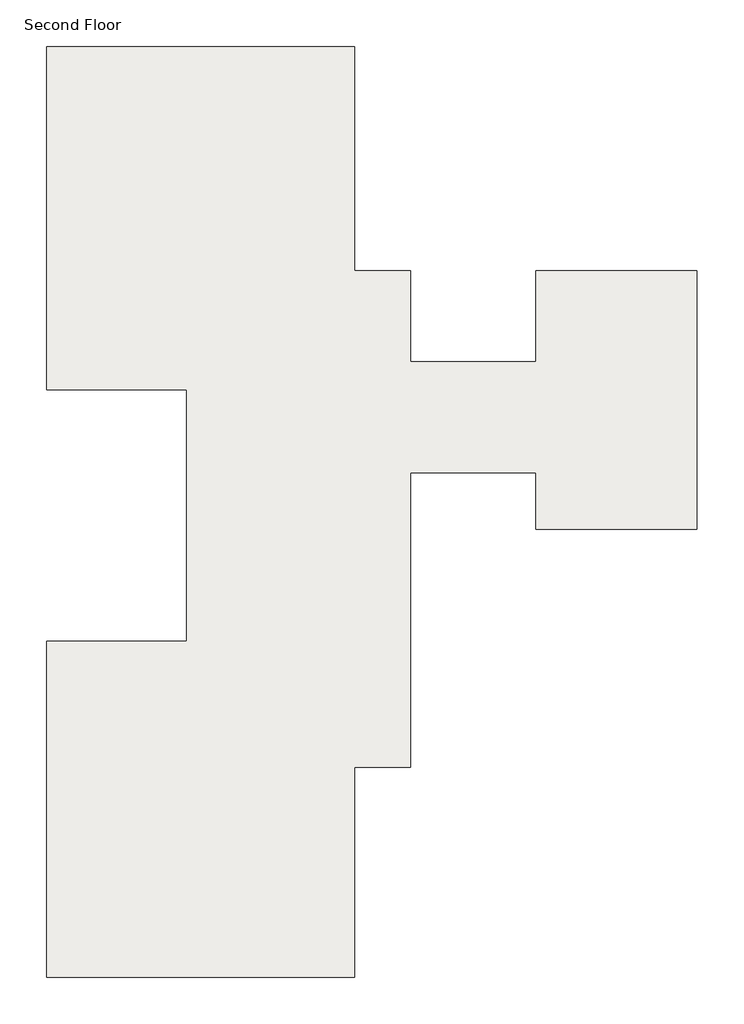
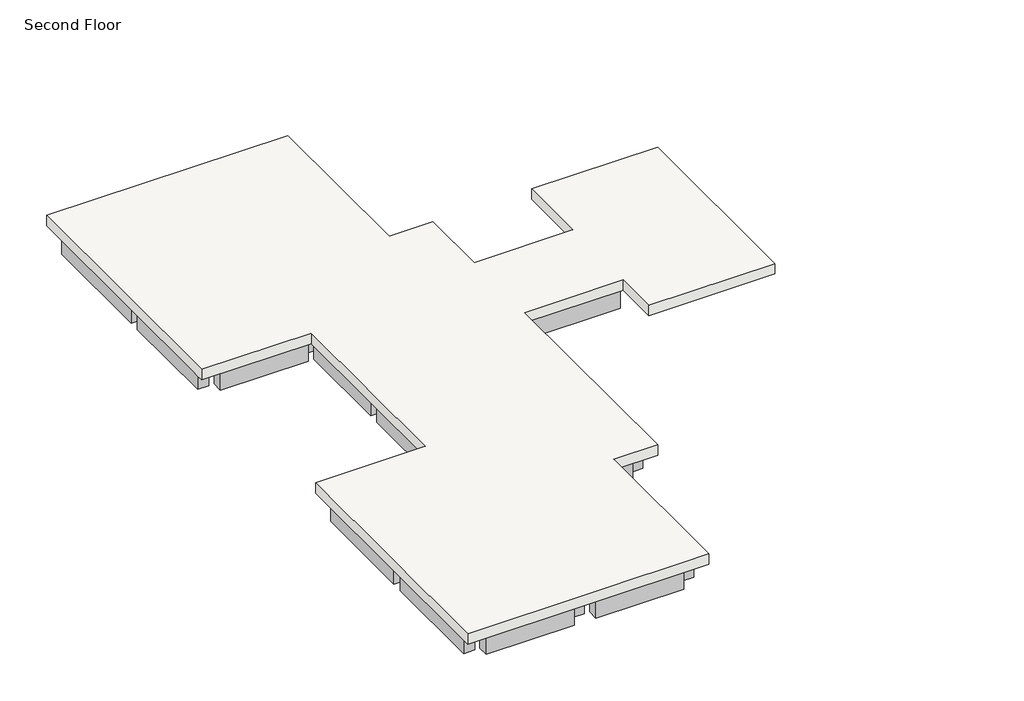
# One storey: 38 beams, 1 slab.
"""IFC4 building model written with IfcOpenShell, lengths in millimetres."""

from ifc_helpers import new_model, si_unit, frame, origin, place, context, project, spatial, polyline, outline, extrude, faceted_brep, element, save

model = new_model("IFC4")

# Units and contexts
model_context = context("Model", 3, world=origin())
ifc_project = project(units=[si_unit("LENGTHUNIT", "METRE", prefix="MILLI")], contexts=[model_context])

# Site, building, storey
site = spatial("IfcSite", under=ifc_project)
building = spatial("IfcBuilding", under=site)
storey = spatial("IfcBuildingStorey", under=building, Name="Second Floor", Elevation=3810.0)

# Beams
placement = place(None, origin())
element("IfcBeam", 1, ObjectType="Concrete-Rectangular Beam : 12 x 24", at=placement, inside=storey, context=model_context, shape_type="SweptSolid", body=[
    extrude(outline(polyline([(-15067.9554735, 14342.1867088), (-15067.9554735, 14646.9867088), (-12629.5554735, 14646.9867088), (-12629.5554735, 14342.1867088), (-15067.9554735, 14342.1867088)])), frame((0.0, 0.0, 2895.6), z_axis=(0.0, 0.0, 1.0), x_axis=(1.0, 0.0, 0.0)), (0.0, 0.0, 1.0), 609.6),
])
element("IfcBeam", 2, ObjectType="Concrete-Rectangular Beam : 12 x 24", at=placement, inside=storey, context=model_context, shape_type="SweptSolid", body=[
    extrude(outline(polyline([(-12019.9554735, 14342.1867088), (-12019.9554735, 14646.9867088), (-9581.5554735, 14646.9867088), (-9581.5554735, 14342.1867088), (-12019.9554735, 14342.1867088)])), frame((0.0, 0.0, 2895.6), z_axis=(0.0, 0.0, 1.0), x_axis=(1.0, 0.0, 0.0)), (0.0, 0.0, 1.0), 609.6),
])
element("IfcBeam", 3, ObjectType="Concrete-Rectangular Beam : 12 x 24", at=placement, inside=storey, context=model_context, shape_type="SweptSolid", body=[
    extrude(outline(polyline([(-9429.1554735, 14342.1867088), (-9124.3554735, 14342.1867088), (-9124.3554735, 10989.3867088), (-9429.1554735, 10989.3867088), (-9429.1554735, 14342.1867088)])), frame((0.0, 0.0, 2895.6), z_axis=(0.0, 0.0, 1.0), x_axis=(1.0, 0.0, 0.0)), (0.0, 0.0, 1.0), 609.6),
])
element("IfcBeam", 4, ObjectType="Concrete-Rectangular Beam : 12 x 24", at=placement, inside=storey, context=model_context, shape_type="SweptSolid", body=[
    extrude(outline(polyline([(-7905.1554735, 7788.9867088), (-8209.9554735, 7788.9867088), (-8209.9554735, 9465.3867088), (-7905.1554735, 9465.3867088), (-7905.1554735, 7788.9867088)])), frame((0.0, 0.0, 2895.6), z_axis=(0.0, 0.0, 1.0), x_axis=(1.0, 0.0, 0.0)), (0.0, 0.0, 1.0), 609.6),
])
element("IfcBeam", 5, ObjectType="Concrete-Rectangular Beam : 12 x 24", at=placement, inside=storey, context=model_context, shape_type="Brep", body=[
    faceted_brep([(-9429.1554735, 9770.1867088, 3505.2), (-9429.1554735, 9465.3867088, 3505.2), (-8362.3554735, 9465.3867088, 3505.2), (-8362.3554735, 9770.1867088, 3505.2), (-9124.3554735, 9770.1867088, 3505.2), (-9429.1554735, 9770.1867088, 2895.6), (-8362.3554735, 9770.1867088, 2895.6), (-9124.3554735, 9770.1867088, 2895.6), (-9429.1554735, 9465.3867088, 2895.6), (-8362.3554735, 9465.3867088, 2895.6)], [[[0, 1, 2, 3, 4]], [[5, 0, 4, 3, 6, 7]], [[8, 5, 7, 6, 9]], [[1, 8, 9, 2]], [[3, 2, 9, 6]], [[1, 0, 5, 8]]]),
])
element("IfcBeam", 6, ObjectType="Concrete-Rectangular Beam : 12 x 24", at=placement, inside=storey, context=model_context, shape_type="Brep", body=[
    faceted_brep([(-7905.1554735, 7484.1867088, 3505.2), (-8209.9554735, 7484.1867088, 3505.2), (-8209.9554735, 4740.9867088, 3505.2), (-7905.1554735, 4740.9867088, 3505.2), (-7905.1554735, 5655.3867088, 3505.2), (-7905.1554735, 5960.1867088, 3505.2), (-8209.9554735, 7484.1867088, 2895.6), (-8209.9554735, 4740.9867088, 2895.6), (-7905.1554735, 7484.1867088, 2895.6), (-7905.1554735, 5960.1867088, 2895.6), (-7905.1554735, 5655.3867088, 2895.6), (-7905.1554735, 4740.9867088, 2895.6)], [[[0, 1, 2, 3, 4, 5]], [[1, 6, 7, 2]], [[6, 8, 9, 10, 11, 7]], [[8, 0, 5, 4, 3, 11, 10, 9]], [[6, 1, 0, 8]], [[3, 2, 7, 11]]]),
])
element("IfcBeam", 7, ObjectType="Concrete-Rectangular Beam : 12 x 24", at=placement, inside=storey, context=model_context, shape_type="SweptSolid", body=[
    extrude(outline(polyline([(-8209.9554735, 4436.1867088), (-7905.1554735, 4436.1867088), (-7905.1554735, 1692.9867088), (-8209.9554735, 1692.9867088), (-8209.9554735, 4436.1867088)])), frame((0.0, 0.0, 2895.6), z_axis=(0.0, 0.0, 1.0), x_axis=(1.0, 0.0, 0.0)), (0.0, 0.0, 1.0), 609.6),
])
element("IfcBeam", 8, ObjectType="Concrete-Rectangular Beam : 12 x 24", at=placement, inside=storey, context=model_context, shape_type="SweptSolid", body=[
    extrude(outline(polyline([(-8209.9554735, 1388.1867088), (-7905.1554735, 1388.1867088), (-7905.1554735, -440.6132912), (-8209.9554735, -440.6132912), (-8209.9554735, 1388.1867088)])), frame((0.0, 0.0, 2895.6), z_axis=(0.0, 0.0, 1.0), x_axis=(1.0, 0.0, 0.0)), (0.0, 0.0, 1.0), 609.6),
])
element("IfcBeam", 9, ObjectType="Concrete-Rectangular Beam : 12 x 24", at=placement, inside=storey, context=model_context, shape_type="Brep", body=[
    faceted_brep([(-9429.1554735, -440.6132912, 3505.2), (-9429.1554735, -745.4132912, 3505.2), (-9124.3554735, -745.4132912, 3505.2), (-8362.3554735, -745.4132912, 3505.2), (-8362.3554735, -440.6132912, 3505.2), (-9429.1554735, -440.6132912, 2895.6), (-8362.3554735, -440.6132912, 2895.6), (-9429.1554735, -745.4132912, 2895.6), (-8362.3554735, -745.4132912, 2895.6), (-9124.3554735, -745.4132912, 2895.6)], [[[0, 1, 2, 3, 4]], [[5, 0, 4, 6]], [[7, 5, 6, 8, 9]], [[1, 7, 9, 8, 3, 2]], [[4, 3, 8, 6]], [[1, 0, 5, 7]]]),
])
element("IfcBeam", 10, ObjectType="Concrete-Rectangular Beam : 12 x 24", at=placement, inside=storey, context=model_context, shape_type="SweptSolid", body=[
    extrude(outline(polyline([(-9429.1554735, -745.4132912), (-9124.3554735, -745.4132912), (-9124.3554735, -1659.8132912), (-9429.1554735, -1659.8132912), (-9429.1554735, -745.4132912)])), frame((0.0, 0.0, 2895.6), z_axis=(0.0, 0.0, 1.0), x_axis=(1.0, 0.0, 0.0)), (0.0, 0.0, 1.0), 609.6),
])
element("IfcBeam", 11, ObjectType="Concrete-Rectangular Beam : 12 x 24", at=placement, inside=storey, context=model_context, shape_type="SweptSolid", body=[
    extrude(outline(polyline([(-9429.1554735, -1964.6132912), (-9124.3554735, -1964.6132912), (-9124.3554735, -5012.6132912), (-9429.1554735, -5012.6132912), (-9429.1554735, -1964.6132912)])), frame((0.0, 0.0, 2895.6), z_axis=(0.0, 0.0, 1.0), x_axis=(1.0, 0.0, 0.0)), (0.0, 0.0, 1.0), 609.6),
])
element("IfcBeam", 12, ObjectType="Concrete-Rectangular Beam : 12 x 24", at=placement, inside=storey, context=model_context, shape_type="SweptSolid", body=[
    extrude(outline(polyline([(-12019.9554735, -5317.4132912), (-12019.9554735, -5012.6132912), (-9581.5554735, -5012.6132912), (-9581.5554735, -5317.4132912), (-12019.9554735, -5317.4132912)])), frame((0.0, 0.0, 2895.6), z_axis=(0.0, 0.0, 1.0), x_axis=(1.0, 0.0, 0.0)), (0.0, 0.0, 1.0), 609.6),
])
element("IfcBeam", 13, ObjectType="Concrete-Rectangular Beam : 12 x 24", at=placement, inside=storey, context=model_context, shape_type="SweptSolid", body=[
    extrude(outline(polyline([(-12629.5554735, -5012.6132912), (-12629.5554735, -5317.4132912), (-15067.9554735, -5317.4132912), (-15067.9554735, -5012.6132912), (-12629.5554735, -5012.6132912)])), frame((0.0, 0.0, 2895.6), z_axis=(0.0, 0.0, 1.0), x_axis=(1.0, 0.0, 0.0)), (0.0, 0.0, 1.0), 609.6),
])
element("IfcBeam", 14, ObjectType="Concrete-Rectangular Beam : 12 x 24", at=placement, inside=storey, context=model_context, shape_type="SweptSolid", body=[
    extrude(outline(polyline([(-15220.3554735, -5012.6132912), (-15525.1554735, -5012.6132912), (-15525.1554735, -1964.6132912), (-15220.3554735, -1964.6132912), (-15220.3554735, -5012.6132912)])), frame((0.0, 0.0, 2895.6), z_axis=(0.0, 0.0, 1.0), x_axis=(1.0, 0.0, 0.0)), (0.0, 0.0, 1.0), 609.6),
])
element("IfcBeam", 15, ObjectType="Concrete-Rectangular Beam : 12 x 24", at=placement, inside=storey, context=model_context, shape_type="SweptSolid", body=[
    extrude(outline(polyline([(-15220.3554735, -1659.8132912), (-15525.1554735, -1659.8132912), (-15525.1554735, 1388.1867088), (-15220.3554735, 1388.1867088), (-15220.3554735, -1659.8132912)])), frame((0.0, 0.0, 2895.6), z_axis=(0.0, 0.0, 1.0), x_axis=(1.0, 0.0, 0.0)), (0.0, 0.0, 1.0), 609.6),
])
element("IfcBeam", 16, ObjectType="Concrete-Rectangular Beam : 12 x 24", at=placement, inside=storey, context=model_context, shape_type="SweptSolid", body=[
    extrude(outline(polyline([(-15525.1554735, 14342.1867088), (-15220.3554735, 14342.1867088), (-15220.3554735, 10989.3867088), (-15525.1554735, 10989.3867088), (-15525.1554735, 14342.1867088)])), frame((0.0, 0.0, 2895.6), z_axis=(0.0, 0.0, 1.0), x_axis=(1.0, 0.0, 0.0)), (0.0, 0.0, 1.0), 609.6),
])
element("IfcBeam", 17, ObjectType="Concrete-Rectangular Beam : 12 x 24", at=placement, inside=storey, context=model_context, shape_type="SweptSolid", body=[
    extrude(outline(polyline([(-12477.1554735, 14342.1867088), (-12172.3554735, 14342.1867088), (-12172.3554735, 10989.3867088), (-12477.1554735, 10989.3867088), (-12477.1554735, 14342.1867088)])), frame((0.0, 0.0, 2895.6), z_axis=(0.0, 0.0, 1.0), x_axis=(1.0, 0.0, 0.0)), (0.0, 0.0, 1.0), 609.6),
])
element("IfcBeam", 18, ObjectType="Concrete-Rectangular Beam : 12 x 24", at=placement, inside=storey, context=model_context, shape_type="SweptSolid", body=[
    extrude(outline(polyline([(-15067.9554735, 10684.5867088), (-15067.9554735, 10989.3867088), (-12629.5554735, 10989.3867088), (-12629.5554735, 10684.5867088), (-15067.9554735, 10684.5867088)])), frame((0.0, 0.0, 2895.6), z_axis=(0.0, 0.0, 1.0), x_axis=(1.0, 0.0, 0.0)), (0.0, 0.0, 1.0), 609.6),
])
element("IfcBeam", 19, ObjectType="Concrete-Rectangular Beam : 12 x 24", at=placement, inside=storey, context=model_context, shape_type="SweptSolid", body=[
    extrude(outline(polyline([(-12477.1554735, 10836.9867088), (-12172.3554735, 10836.9867088), (-12172.3554735, 7788.9867088), (-12477.1554735, 7788.9867088), (-12477.1554735, 10836.9867088)])), frame((0.0, 0.0, 2895.6), z_axis=(0.0, 0.0, 1.0), x_axis=(1.0, 0.0, 0.0)), (0.0, 0.0, 1.0), 609.6),
])
element("IfcBeam", 20, ObjectType="Concrete-Rectangular Beam : 12 x 24", at=placement, inside=storey, context=model_context, shape_type="SweptSolid", body=[
    extrude(outline(polyline([(-12477.1554735, 7484.1867088), (-12172.3554735, 7484.1867088), (-12172.3554735, 4740.9867088), (-12477.1554735, 4740.9867088), (-12477.1554735, 7484.1867088)])), frame((0.0, 0.0, 2895.6), z_axis=(0.0, 0.0, 1.0), x_axis=(1.0, 0.0, 0.0)), (0.0, 0.0, 1.0), 609.6),
])
element("IfcBeam", 21, ObjectType="Concrete-Rectangular Beam : 12 x 24", at=placement, inside=storey, context=model_context, shape_type="SweptSolid", body=[
    extrude(outline(polyline([(-12477.1554735, 4436.1867088), (-12172.3554735, 4436.1867088), (-12172.3554735, 1692.9867088), (-12477.1554735, 1692.9867088), (-12477.1554735, 4436.1867088)])), frame((0.0, 0.0, 2895.6), z_axis=(0.0, 0.0, 1.0), x_axis=(1.0, 0.0, 0.0)), (0.0, 0.0, 1.0), 609.6),
])
element("IfcBeam", 22, ObjectType="Concrete-Rectangular Beam : 12 x 24", at=placement, inside=storey, context=model_context, shape_type="SweptSolid", body=[
    extrude(outline(polyline([(-12477.1554735, 1388.1867088), (-12172.3554735, 1388.1867088), (-12172.3554735, -1659.8132912), (-12477.1554735, -1659.8132912), (-12477.1554735, 1388.1867088)])), frame((0.0, 0.0, 2895.6), z_axis=(0.0, 0.0, 1.0), x_axis=(1.0, 0.0, 0.0)), (0.0, 0.0, 1.0), 609.6),
])
element("IfcBeam", 23, ObjectType="Concrete-Rectangular Beam : 12 x 24", at=placement, inside=storey, context=model_context, shape_type="SweptSolid", body=[
    extrude(outline(polyline([(-12172.3554735, -5012.6132912), (-12477.1554735, -5012.6132912), (-12477.1554735, -1964.6132912), (-12172.3554735, -1964.6132912), (-12172.3554735, -5012.6132912)])), frame((0.0, 0.0, 2895.6), z_axis=(0.0, 0.0, 1.0), x_axis=(1.0, 0.0, 0.0)), (0.0, 0.0, 1.0), 609.6),
])
element("IfcBeam", 24, ObjectType="Concrete-Rectangular Beam : 12 x 24", at=placement, inside=storey, context=model_context, shape_type="SweptSolid", body=[
    extrude(outline(polyline([(-15525.1554735, 10684.5867088), (-15220.3554735, 10684.5867088), (-15220.3554735, 7788.9867088), (-15525.1554735, 7788.9867088), (-15525.1554735, 10684.5867088)])), frame((0.0, 0.0, 2895.6), z_axis=(0.0, 0.0, 1.0), x_axis=(1.0, 0.0, 0.0)), (0.0, 0.0, 1.0), 609.6),
])
element("IfcBeam", 25, ObjectType="Concrete-Rectangular Beam : 12 x 24", at=placement, inside=storey, context=model_context, shape_type="SweptSolid", body=[
    extrude(outline(polyline([(-15067.9554735, 7484.1867088), (-15067.9554735, 7788.9867088), (-12629.5554735, 7788.9867088), (-12629.5554735, 7484.1867088), (-15067.9554735, 7484.1867088)])), frame((0.0, 0.0, 2895.6), z_axis=(0.0, 0.0, 1.0), x_axis=(1.0, 0.0, 0.0)), (0.0, 0.0, 1.0), 609.6),
])
element("IfcBeam", 26, ObjectType="Concrete-Rectangular Beam : 12 x 24", at=placement, inside=storey, context=model_context, shape_type="SweptSolid", body=[
    extrude(outline(polyline([(-12019.9554735, 1388.1867088), (-12019.9554735, 1692.9867088), (-8362.3554735, 1692.9867088), (-8362.3554735, 1388.1867088), (-12019.9554735, 1388.1867088)])), frame((0.0, 0.0, 2895.6), z_axis=(0.0, 0.0, 1.0), x_axis=(1.0, 0.0, 0.0)), (0.0, 0.0, 1.0), 609.6),
])
element("IfcBeam", 27, ObjectType="Concrete-Rectangular Beam : 12 x 24", at=placement, inside=storey, context=model_context, shape_type="SweptSolid", body=[
    extrude(outline(polyline([(-4399.9554735, 5655.3867088), (-4399.9554735, 5960.1867088), (-2113.9554735, 5960.1867088), (-2113.9554735, 5655.3867088), (-4399.9554735, 5655.3867088)])), frame((0.0, 0.0, 2895.6), z_axis=(0.0, 0.0, 1.0), x_axis=(1.0, 0.0, 0.0)), (0.0, 0.0, 1.0), 609.6),
])
element("IfcBeam", 28, ObjectType="Concrete-Rectangular Beam : 12 x 24", at=placement, inside=storey, context=model_context, shape_type="SweptSolid", body=[
    extrude(outline(polyline([(-5009.5554735, 7788.9867088), (-5009.5554735, 7484.1867088), (-7752.7554735, 7484.1867088), (-7752.7554735, 7788.9867088), (-5009.5554735, 7788.9867088)])), frame((0.0, 0.0, 2895.6), z_axis=(0.0, 0.0, 1.0), x_axis=(1.0, 0.0, 0.0)), (0.0, 0.0, 1.0), 609.6),
])
element("IfcBeam", 29, ObjectType="Concrete-Rectangular Beam : 12 x 24", at=placement, inside=storey, context=model_context, shape_type="SweptSolid", body=[
    extrude(outline(polyline([(-5009.5554735, 5960.1867088), (-5009.5554735, 5655.3867088), (-7905.1554735, 5655.3867088), (-7905.1554735, 5960.1867088), (-5009.5554735, 5960.1867088)])), frame((0.0, 0.0, 2895.6), z_axis=(0.0, 0.0, 1.0), x_axis=(1.0, 0.0, 0.0)), (0.0, 0.0, 1.0), 609.6),
])
element("IfcBeam", 30, ObjectType="Concrete-Rectangular Beam : 12 x 24", at=placement, inside=storey, context=model_context, shape_type="SweptSolid", body=[
    extrude(outline(polyline([(-4399.9554735, 7484.1867088), (-4399.9554735, 7788.9867088), (-2113.9554735, 7788.9867088), (-2113.9554735, 7484.1867088), (-4399.9554735, 7484.1867088)])), frame((0.0, 0.0, 2895.6), z_axis=(0.0, 0.0, 1.0), x_axis=(1.0, 0.0, 0.0)), (0.0, 0.0, 1.0), 609.6),
])
element("IfcBeam", 31, ObjectType="Concrete-Rectangular Beam : 12 x 24", at=placement, inside=storey, context=model_context, shape_type="SweptSolid", body=[
    extrude(outline(polyline([(-12477.1554735, 10684.5867088), (-12172.3554735, 10684.5867088), (-12172.3554735, 7788.9867088), (-12477.1554735, 7788.9867088), (-12477.1554735, 10684.5867088)])), frame((0.0, 0.0, 2895.6), z_axis=(0.0, 0.0, 1.0), x_axis=(1.0, 0.0, 0.0)), (0.0, 0.0, 1.0), 609.6),
])
element("IfcBeam", 32, ObjectType="Concrete-Rectangular Beam : 12 x 24", at=placement, inside=storey, context=model_context, shape_type="SweptSolid", body=[
    extrude(outline(polyline([(-12019.9554735, 10684.5867088), (-12019.9554735, 10989.3867088), (-9581.5554735, 10989.3867088), (-9581.5554735, 10684.5867088), (-12019.9554735, 10684.5867088)])), frame((0.0, 0.0, 2895.6), z_axis=(0.0, 0.0, 1.0), x_axis=(1.0, 0.0, 0.0)), (0.0, 0.0, 1.0), 609.6),
])
element("IfcBeam", 33, ObjectType="Concrete-Rectangular Beam : 12 x 24", at=placement, inside=storey, context=model_context, shape_type="SweptSolid", body=[
    extrude(outline(polyline([(-12629.5554735, -1659.8132912), (-12629.5554735, -1964.6132912), (-15067.9554735, -1964.6132912), (-15067.9554735, -1659.8132912), (-12629.5554735, -1659.8132912)])), frame((0.0, 0.0, 2895.6), z_axis=(0.0, 0.0, 1.0), x_axis=(1.0, 0.0, 0.0)), (0.0, 0.0, 1.0), 609.6),
])
element("IfcBeam", 34, ObjectType="Concrete-Rectangular Beam : 12 x 24", at=placement, inside=storey, context=model_context, shape_type="SweptSolid", body=[
    extrude(outline(polyline([(-12629.5554735, 1692.9867088), (-12629.5554735, 1388.1867088), (-15067.9554735, 1388.1867088), (-15067.9554735, 1692.9867088), (-12629.5554735, 1692.9867088)])), frame((0.0, 0.0, 2895.6), z_axis=(0.0, 0.0, 1.0), x_axis=(1.0, 0.0, 0.0)), (0.0, 0.0, 1.0), 609.6),
])
element("IfcBeam", 35, ObjectType="Concrete-Rectangular Beam : 12 x 24", at=placement, inside=storey, context=model_context, shape_type="SweptSolid", body=[
    extrude(outline(polyline([(-12019.9554735, -1964.6132912), (-12019.9554735, -1659.8132912), (-9581.5554735, -1659.8132912), (-9581.5554735, -1964.6132912), (-12019.9554735, -1964.6132912)])), frame((0.0, 0.0, 2895.6), z_axis=(0.0, 0.0, 1.0), x_axis=(1.0, 0.0, 0.0)), (0.0, 0.0, 1.0), 609.6),
])
element("IfcBeam", 36, ObjectType="Concrete-Rectangular Beam : 12 x 24", at=placement, inside=storey, context=model_context, shape_type="SweptSolid", body=[
    extrude(outline(polyline([(-9124.3554735, 9770.1867088), (-9429.1554735, 9770.1867088), (-9429.1554735, 10684.5867088), (-9124.3554735, 10684.5867088), (-9124.3554735, 9770.1867088)])), frame((0.0, 0.0, 2895.6), z_axis=(0.0, 0.0, 1.0), x_axis=(1.0, 0.0, 0.0)), (0.0, 0.0, 1.0), 609.6),
])
element("IfcBeam", 37, ObjectType="Concrete-Rectangular Beam : 12 x 24", at=placement, inside=storey, context=model_context, shape_type="SweptSolid", body=[
    extrude(outline(polyline([(-8362.3554735, 7788.9867088), (-8362.3554735, 7484.1867088), (-12019.9554735, 7484.1867088), (-12019.9554735, 7788.9867088), (-8362.3554735, 7788.9867088)])), frame((0.0, 0.0, 2895.6), z_axis=(0.0, 0.0, 1.0), x_axis=(1.0, 0.0, 0.0)), (0.0, 0.0, 1.0), 609.6),
])
element("IfcBeam", 38, ObjectType="Concrete-Rectangular Beam : 12 x 24", at=placement, inside=storey, context=model_context, shape_type="SweptSolid", body=[
    extrude(outline(polyline([(-12019.9554735, 4436.1867088), (-12019.9554735, 4740.9867088), (-8362.3554735, 4740.9867088), (-8362.3554735, 4436.1867088), (-12019.9554735, 4436.1867088)])), frame((0.0, 0.0, 2895.6), z_axis=(0.0, 0.0, 1.0), x_axis=(1.0, 0.0, 0.0)), (0.0, 0.0, 1.0), 609.6),
])

# Slab
element("IfcSlab", 39, ObjectType="Generic - 12\"", at=placement, inside=storey, context=model_context, shape_type="Brep", body=[
    faceted_brep([(-8971.9554735, 14799.3867088, 3505.2), (-8971.9554735, 14646.9867088, 3505.2), (-8971.9554735, 14342.1867088, 3505.2), (-8971.9554735, 10989.3867088, 3505.2), (-8971.9554735, 10684.5867088, 3505.2), (-8971.9554735, 9922.5867088, 3505.2), (-7752.7554735, 9922.5867088, 3505.2), (-7752.7554735, 9770.1867088, 3505.2), (-7752.7554735, 9465.3867088, 3505.2), (-7752.7554735, 7941.3867088, 3505.2), (-5009.5554735, 7941.3867088, 3505.2), (-5009.5554735, 9922.5867088, 3505.2), (-1504.3554735, 9922.5867088, 3505.2), (-1504.3554735, 7788.9867088, 3505.2), (-1504.3554735, 7484.1867088, 3505.2), (-1504.3554735, 5960.1867088, 3505.2), (-1504.3554735, 5655.3867088, 3505.2), (-1504.3554735, 4283.7867088, 3505.2), (-5009.5554735, 4283.7867088, 3505.2), (-5009.5554735, 5516.5265407, 3505.2), (-7752.7554735, 5516.5265407, 3505.2), (-7752.7554735, 4740.9867088, 3505.2), (-7752.7554735, 4436.1867088, 3505.2), (-7752.7554735, 1692.9867088, 3505.2), (-7752.7554735, 1388.1867088, 3505.2), (-7752.7554735, -440.6132912, 3505.2), (-7752.7554735, -745.4132912, 3505.2), (-7752.7554735, -897.8132912, 3505.2), (-8971.9554735, -897.8132912, 3505.2), (-8971.9554735, -1659.8132912, 3505.2), (-8971.9554735, -1964.6132912, 3505.2), (-8971.9554735, -5012.6132912, 3505.2), (-8971.9554735, -5317.4132912, 3505.2), (-8971.9554735, -5469.8132912, 3505.2), (-15677.5554735, -5469.8132912, 3505.2), (-15677.5554735, -5317.4132912, 3505.2), (-15677.5554735, -5012.6132912, 3505.2), (-15677.5554735, -1964.6132912, 3505.2), (-15677.5554735, -1659.8132912, 3505.2), (-15677.5554735, 1388.1867088, 3505.2), (-15677.5554735, 1692.9867088, 3505.2), (-15677.5554735, 1845.3867088, 3505.2), (-12629.5554735, 1845.3867088, 3505.2), (-12629.5554735, 4436.1867088, 3505.2), (-12629.5554735, 4740.9867088, 3505.2), (-12629.5554735, 7331.7867088, 3505.2), (-15677.5554735, 7331.7867088, 3505.2), (-15677.5554735, 7484.1867088, 3505.2), (-15677.5554735, 7788.9867088, 3505.2), (-15677.5554735, 10684.5867088, 3505.2), (-15677.5554735, 10989.3867088, 3505.2), (-15677.5554735, 14342.1867088, 3505.2), (-15677.5554735, 14646.9867088, 3505.2), (-15677.5554735, 14799.3867088, 3505.2), (-8971.9554735, 14799.3867088, 3810.0), (-15677.5554735, 14799.3867088, 3810.0), (-15677.5554735, 7331.7867088, 3810.0), (-12629.5554735, 7331.7867088, 3810.0), (-12629.5554735, 1845.3867088, 3810.0), (-15677.5554735, 1845.3867088, 3810.0), (-15677.5554735, -5469.8132912, 3810.0), (-8971.9554735, -5469.8132912, 3810.0), (-8971.9554735, -897.8132912, 3810.0), (-7752.7554735, -897.8132912, 3810.0), (-7752.7554735, 5516.5265407, 3810.0), (-5009.5554735, 5516.5265407, 3810.0), (-5009.5554735, 4283.7867088, 3810.0), (-1504.3554735, 4283.7867088, 3810.0), (-1504.3554735, 9922.5867088, 3810.0), (-5009.5554735, 9922.5867088, 3810.0), (-5009.5554735, 7941.3867088, 3810.0), (-7752.7554735, 7941.3867088, 3810.0), (-7752.7554735, 9922.5867088, 3810.0), (-8971.9554735, 9922.5867088, 3810.0)], [[[0, 1, 2, 3, 4, 5, 6, 7, 8, 9, 10, 11, 12, 13, 14, 15, 16, 17, 18, 19, 20, 21, 22, 23, 24, 25, 26, 27, 28, 29, 30, 31, 32, 33, 34, 35, 36, 37, 38, 39, 40, 41, 42, 43, 44, 45, 46, 47, 48, 49, 50, 51, 52, 53]], [[54, 55, 56, 57, 58, 59, 60, 61, 62, 63, 64, 65, 66, 67, 68, 69, 70, 71, 72, 73]], [[5, 4, 3, 2, 1, 0, 54, 73]], [[6, 5, 73, 72]], [[9, 8, 7, 6, 72, 71]], [[10, 9, 71, 70]], [[11, 10, 70, 69]], [[12, 11, 69, 68]], [[17, 16, 15, 14, 13, 12, 68, 67]], [[18, 17, 67, 66]], [[19, 18, 66, 65]], [[20, 19, 65, 64]], [[27, 26, 25, 24, 23, 22, 21, 20, 64, 63]], [[28, 27, 63, 62]], [[33, 32, 31, 30, 29, 28, 62, 61]], [[34, 33, 61, 60]], [[41, 40, 39, 38, 37, 36, 35, 34, 60, 59]], [[42, 41, 59, 58]], [[45, 44, 43, 42, 58, 57]], [[46, 45, 57, 56]], [[53, 52, 51, 50, 49, 48, 47, 46, 56, 55]], [[0, 53, 55, 54]]]),
])

save(model, "model.ifc")
